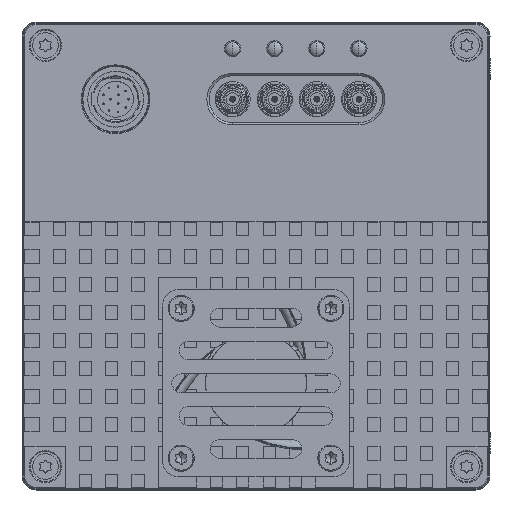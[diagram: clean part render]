
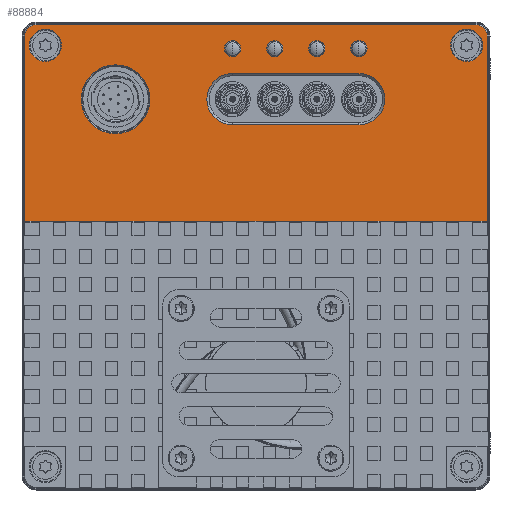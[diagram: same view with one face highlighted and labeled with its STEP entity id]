
A CAD part, front view. The second image highlights one B-rep face of the part: STEP entity #88884.
In plain terms, the highlighted planar face has unit normal (0, -1, 0).
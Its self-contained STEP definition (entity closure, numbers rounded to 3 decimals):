
#1659=DIRECTION('',(0.,0.,1.));
#1660=VECTOR('',#1659,39.6);
#1661=CARTESIAN_POINT('',(49.4,-57.96,7.4));
#1662=LINE('',#1661,#1660);
#1666=DIRECTION('',(0.,0.,-1.));
#1667=VECTOR('',#1666,39.6);
#1668=CARTESIAN_POINT('',(-49.4,-57.96,
47.));
#1669=LINE('',#1668,#1667);
#1673=CARTESIAN_POINT('',(-47.,-57.96,47.));
#1674=DIRECTION('',(0.,-1.,0.));
#1675=DIRECTION('',(0.,0.,1.));
#1676=AXIS2_PLACEMENT_3D('',#1673,#1674,#1675);
#1681=DIRECTION('',(-1.,0.,0.));
#1682=VECTOR('',#1681,94.);
#1683=CARTESIAN_POINT('',(47.,-57.96,49.4));
#1684=LINE('',#1683,#1682);
#1688=CARTESIAN_POINT('',(47.,-57.96,47.));
#1689=DIRECTION('',(0.,-1.,0.));
#1690=DIRECTION('',(1.,0.,0.));
#1691=AXIS2_PLACEMENT_3D('',#1688,#1689,#1690);
#1696=CARTESIAN_POINT('',(-5.,-57.96,33.5));
#1697=DIRECTION('',(0.,1.,0.));
#1698=DIRECTION('',(0.,0.,-1.));
#1699=AXIS2_PLACEMENT_3D('',#1696,#1697,#1698);
#1704=DIRECTION('',(-1.,0.,0.));
#1705=VECTOR('',#1704,27.);
#1706=CARTESIAN_POINT('',(22.,-57.96,28.));
#1707=LINE('',#1706,#1705);
#1711=CARTESIAN_POINT('',(22.,-57.96,33.5));
#1712=DIRECTION('',(0.,1.,0.));
#1713=DIRECTION('',(0.,0.,1.));
#1714=AXIS2_PLACEMENT_3D('',#1711,#1712,#1713);
#1719=DIRECTION('',(1.,0.,0.));
#1720=VECTOR('',#1719,27.);
#1721=CARTESIAN_POINT('',(-5.,-57.96,
39.));
#1722=LINE('',#1721,#1720);
#1726=CARTESIAN_POINT('',(-30.,-57.96,33.5));
#1727=DIRECTION('',(0.,1.,0.));
#1728=DIRECTION('',(-1.,0.,0.));
#1729=AXIS2_PLACEMENT_3D('',#1726,#1727,#1728);
#1734=CARTESIAN_POINT('',(-30.,-57.96,33.5));
#1735=DIRECTION('',(0.,1.,0.));
#1736=DIRECTION('',(1.,0.,0.));
#1737=AXIS2_PLACEMENT_3D('',#1734,#1735,#1736);
#1742=CARTESIAN_POINT('',(45.,-57.96,45.));
#1743=DIRECTION('',(0.,1.,0.));
#1744=DIRECTION('',(-1.,0.,0.));
#1745=AXIS2_PLACEMENT_3D('',#1742,#1743,#1744);
#1750=CARTESIAN_POINT('',(45.,-57.96,45.));
#1751=DIRECTION('',(0.,1.,0.));
#1752=DIRECTION('',(1.,0.,0.));
#1753=AXIS2_PLACEMENT_3D('',#1750,#1751,#1752);
#1758=CARTESIAN_POINT('',(-45.,-57.96,45.));
#1759=DIRECTION('',(0.,1.,0.));
#1760=DIRECTION('',(-1.,0.,0.));
#1761=AXIS2_PLACEMENT_3D('',#1758,#1759,#1760);
#1766=CARTESIAN_POINT('',(-45.,-57.96,45.));
#1767=DIRECTION('',(0.,1.,0.));
#1768=DIRECTION('',(1.,0.,0.));
#1769=AXIS2_PLACEMENT_3D('',#1766,#1767,#1768);
#1774=CARTESIAN_POINT('',(-5.,-57.96,44.3));
#1775=DIRECTION('',(0.,-1.,0.));
#1776=DIRECTION('',(0.,0.,-1.));
#1777=AXIS2_PLACEMENT_3D('',#1774,#1775,#1776);
#1782=CARTESIAN_POINT('',(-5.,-57.96,44.3));
#1783=DIRECTION('',(0.,-1.,0.));
#1784=DIRECTION('',(0.,0.,1.));
#1785=AXIS2_PLACEMENT_3D('',#1782,#1783,#1784);
#1790=CARTESIAN_POINT('',(4.,-57.96,44.3));
#1791=DIRECTION('',(0.,-1.,0.));
#1792=DIRECTION('',(0.,0.,-1.));
#1793=AXIS2_PLACEMENT_3D('',#1790,#1791,#1792);
#1798=CARTESIAN_POINT('',(4.,-57.96,44.3));
#1799=DIRECTION('',(0.,-1.,0.));
#1800=DIRECTION('',(0.,0.,1.));
#1801=AXIS2_PLACEMENT_3D('',#1798,#1799,#1800);
#1806=CARTESIAN_POINT('',(13.,-57.96,44.3));
#1807=DIRECTION('',(0.,-1.,0.));
#1808=DIRECTION('',(0.,0.,-1.));
#1809=AXIS2_PLACEMENT_3D('',#1806,#1807,#1808);
#1814=CARTESIAN_POINT('',(13.,-57.96,44.3));
#1815=DIRECTION('',(0.,-1.,0.));
#1816=DIRECTION('',(0.,0.,1.));
#1817=AXIS2_PLACEMENT_3D('',#1814,#1815,#1816);
#1822=CARTESIAN_POINT('',(22.,-57.96,44.3));
#1823=DIRECTION('',(0.,-1.,0.));
#1824=DIRECTION('',(0.,0.,-1.));
#1825=AXIS2_PLACEMENT_3D('',#1822,#1823,#1824);
#1830=CARTESIAN_POINT('',(22.,-57.96,44.3));
#1831=DIRECTION('',(0.,-1.,0.));
#1832=DIRECTION('',(0.,0.,1.));
#1833=AXIS2_PLACEMENT_3D('',#1830,#1831,#1832);
#1936=DIRECTION('',(1.,0.,0.));
#1937=VECTOR('',#1936,98.8);
#1938=CARTESIAN_POINT('',(-49.4,-57.96,7.4));
#1939=LINE('',#1938,#1937);
#78271=CARTESIAN_POINT('',(-5.,-57.96,28.));
#78272=CARTESIAN_POINT('',(-5.,-57.96,39.));
#78273=VERTEX_POINT('',#78271);
#78274=VERTEX_POINT('',#78272);
#78279=CARTESIAN_POINT('',(22.,-57.96,
39.));
#78280=VERTEX_POINT('',#78279);
#78283=CARTESIAN_POINT('',(22.,-57.96,28.));
#78284=VERTEX_POINT('',#78283);
#78287=CARTESIAN_POINT('',(-37.35,-57.96,33.5));
#78288=CARTESIAN_POINT('',(-22.65,-57.96,33.5));
#78289=VERTEX_POINT('',#78287);
#78290=VERTEX_POINT('',#78288);
#80239=CARTESIAN_POINT('',(41.55,-57.96,45.));
#80240=CARTESIAN_POINT('',(48.45,-57.96,45.));
#80241=VERTEX_POINT('',#80239);
#80242=VERTEX_POINT('',#80240);
#80247=CARTESIAN_POINT('',(-48.45,-57.96,45.));
#80248=CARTESIAN_POINT('',(-41.55,-57.96,45.));
#80249=VERTEX_POINT('',#80247);
#80250=VERTEX_POINT('',#80248);
#80341=CARTESIAN_POINT('',(-49.4,-57.96,7.4));
#80342=VERTEX_POINT('',#80341);
#80345=CARTESIAN_POINT('',(49.4,-57.96,7.4));
#80346=CARTESIAN_POINT('',(49.4,-57.96,
47.));
#80347=VERTEX_POINT('',#80345);
#80348=VERTEX_POINT('',#80346);
#80353=CARTESIAN_POINT('',(47.,-57.96,49.4));
#80354=VERTEX_POINT('',#80353);
#80357=CARTESIAN_POINT('',(-47.,-57.96,
49.4));
#80358=VERTEX_POINT('',#80357);
#80361=CARTESIAN_POINT('',(-49.4,-57.96,47.));
#80362=VERTEX_POINT('',#80361);
#83082=CARTESIAN_POINT('',(-5.,-57.96,42.616));
#83083=CARTESIAN_POINT('',(-5.,-57.96,45.984));
#83084=VERTEX_POINT('',#83082);
#83085=VERTEX_POINT('',#83083);
#83092=CARTESIAN_POINT('',(4.,-57.96,42.616));
#83093=CARTESIAN_POINT('',(4.,-57.96,45.984));
#83094=VERTEX_POINT('',#83092);
#83095=VERTEX_POINT('',#83093);
#83102=CARTESIAN_POINT('',(13.,-57.96,42.616));
#83103=CARTESIAN_POINT('',(13.,-57.96,45.984));
#83104=VERTEX_POINT('',#83102);
#83105=VERTEX_POINT('',#83103);
#83112=CARTESIAN_POINT('',(22.,-57.96,42.616));
#83113=CARTESIAN_POINT('',(22.,-57.96,45.984));
#83114=VERTEX_POINT('',#83112);
#83115=VERTEX_POINT('',#83113);
#88814=CARTESIAN_POINT('',(0.,-57.96,0.));
#88815=DIRECTION('',(0.,1.,0.));
#88816=DIRECTION('',(-1.,0.,0.));
#88817=AXIS2_PLACEMENT_3D('',#88814,#88815,#88816);
#88818=PLANE('',#88817);
#88820=ORIENTED_EDGE('',*,*,#88819,.F.);
#88822=ORIENTED_EDGE('',*,*,#88821,.F.);
#88824=ORIENTED_EDGE('',*,*,#88823,.F.);
#88826=ORIENTED_EDGE('',*,*,#88825,.F.);
#88828=ORIENTED_EDGE('',*,*,#88827,.F.);
#88829=ORIENTED_EDGE('',*,*,#88797,.F.);
#88830=EDGE_LOOP('',(#88820,#88822,#88824,#88826,#88828,#88829));
#88831=FACE_OUTER_BOUND('',#88830,.F.);
#88833=ORIENTED_EDGE('',*,*,#88832,.F.);
#88835=ORIENTED_EDGE('',*,*,#88834,.F.);
#88837=ORIENTED_EDGE('',*,*,#88836,.F.);
#88839=ORIENTED_EDGE('',*,*,#88838,.F.);
#88840=EDGE_LOOP('',(#88833,#88835,#88837,#88839));
#88841=FACE_BOUND('',#88840,.F.);
#88843=ORIENTED_EDGE('',*,*,#88842,.F.);
#88845=ORIENTED_EDGE('',*,*,#88844,.F.);
#88846=EDGE_LOOP('',(#88843,#88845));
#88847=FACE_BOUND('',#88846,.F.);
#88849=ORIENTED_EDGE('',*,*,#88848,.F.);
#88851=ORIENTED_EDGE('',*,*,#88850,.F.);
#88852=EDGE_LOOP('',(#88849,#88851));
#88853=FACE_BOUND('',#88852,.F.);
#88855=ORIENTED_EDGE('',*,*,#88854,.F.);
#88857=ORIENTED_EDGE('',*,*,#88856,.F.);
#88858=EDGE_LOOP('',(#88855,#88857));
#88859=FACE_BOUND('',#88858,.F.);
#88861=ORIENTED_EDGE('',*,*,#88860,.T.);
#88863=ORIENTED_EDGE('',*,*,#88862,.T.);
#88864=EDGE_LOOP('',(#88861,#88863));
#88865=FACE_BOUND('',#88864,.F.);
#88867=ORIENTED_EDGE('',*,*,#88866,.T.);
#88869=ORIENTED_EDGE('',*,*,#88868,.T.);
#88870=EDGE_LOOP('',(#88867,#88869));
#88871=FACE_BOUND('',#88870,.F.);
#88873=ORIENTED_EDGE('',*,*,#88872,.T.);
#88875=ORIENTED_EDGE('',*,*,#88874,.T.);
#88876=EDGE_LOOP('',(#88873,#88875));
#88877=FACE_BOUND('',#88876,.F.);
#88879=ORIENTED_EDGE('',*,*,#88878,.T.);
#88881=ORIENTED_EDGE('',*,*,#88880,.T.);
#88882=EDGE_LOOP('',(#88879,#88881));
#88883=FACE_BOUND('',#88882,.F.);
#88884=ADVANCED_FACE('',(#88831,#88841,#88847,#88853,#88859,#88865,#88871,
#88877,#88883),#88818,.F.);
#1677=CIRCLE('',#1676,2.4);
#1692=CIRCLE('',#1691,2.4);
#1700=CIRCLE('',#1699,5.5);
#1715=CIRCLE('',#1714,5.5);
#1730=CIRCLE('',#1729,7.35);
#1738=CIRCLE('',#1737,7.35);
#1746=CIRCLE('',#1745,3.45);
#1754=CIRCLE('',#1753,3.45);
#1762=CIRCLE('',#1761,3.45);
#1770=CIRCLE('',#1769,3.45);
#1778=CIRCLE('',#1777,1.684);
#1786=CIRCLE('',#1785,1.684);
#1794=CIRCLE('',#1793,1.684);
#1802=CIRCLE('',#1801,1.684);
#1810=CIRCLE('',#1809,1.684);
#1818=CIRCLE('',#1817,1.684);
#1826=CIRCLE('',#1825,1.684);
#1834=CIRCLE('',#1833,1.684);
#88797=EDGE_CURVE('',#80348,#80354,#1692,.T.);
#88819=EDGE_CURVE('',#80347,#80348,#1662,.T.);
#88821=EDGE_CURVE('',#80342,#80347,#1939,.T.);
#88823=EDGE_CURVE('',#80362,#80342,#1669,.T.);
#88825=EDGE_CURVE('',#80358,#80362,#1677,.T.);
#88827=EDGE_CURVE('',#80354,#80358,#1684,.T.);
#88832=EDGE_CURVE('',#78273,#78274,#1700,.T.);
#88834=EDGE_CURVE('',#78284,#78273,#1707,.T.);
#88836=EDGE_CURVE('',#78280,#78284,#1715,.T.);
#88838=EDGE_CURVE('',#78274,#78280,#1722,.T.);
#88842=EDGE_CURVE('',#78289,#78290,#1730,.T.);
#88844=EDGE_CURVE('',#78290,#78289,#1738,.T.);
#88848=EDGE_CURVE('',#80241,#80242,#1746,.T.);
#88850=EDGE_CURVE('',#80242,#80241,#1754,.T.);
#88854=EDGE_CURVE('',#80249,#80250,#1762,.T.);
#88856=EDGE_CURVE('',#80250,#80249,#1770,.T.);
#88860=EDGE_CURVE('',#83084,#83085,#1778,.T.);
#88862=EDGE_CURVE('',#83085,#83084,#1786,.T.);
#88866=EDGE_CURVE('',#83094,#83095,#1794,.T.);
#88868=EDGE_CURVE('',#83095,#83094,#1802,.T.);
#88872=EDGE_CURVE('',#83104,#83105,#1810,.T.);
#88874=EDGE_CURVE('',#83105,#83104,#1818,.T.);
#88878=EDGE_CURVE('',#83114,#83115,#1826,.T.);
#88880=EDGE_CURVE('',#83115,#83114,#1834,.T.);
